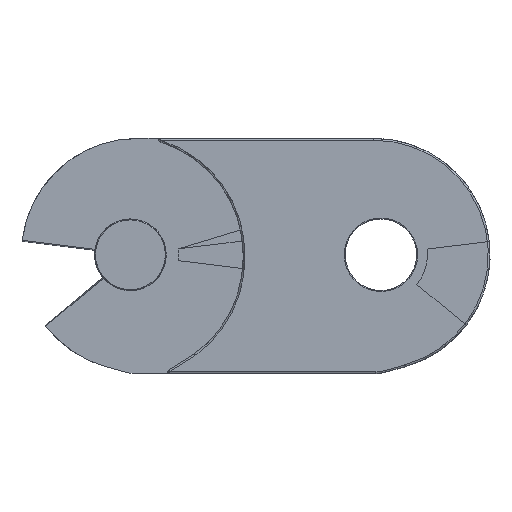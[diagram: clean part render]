
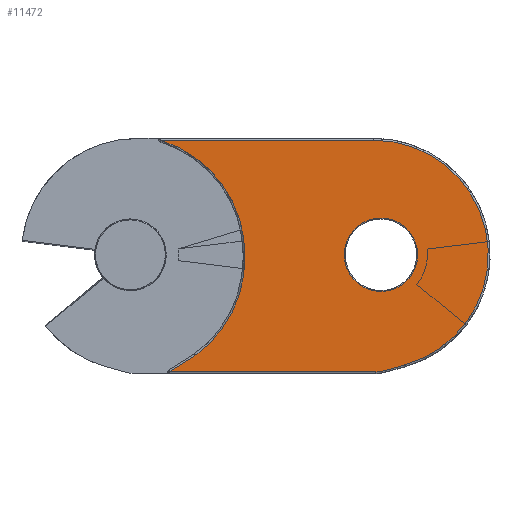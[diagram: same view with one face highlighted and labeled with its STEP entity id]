
A CAD part, left-side view. The second image highlights one B-rep face of the part: STEP entity #11472.
In plain terms, the highlighted planar face has unit normal (-1, 0, 0) as drawn and (0, 0, -1) by its records, which use the part's own axes.
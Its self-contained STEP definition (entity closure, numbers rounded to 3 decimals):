
#10945=CARTESIAN_POINT('',(105.249,139.968,70.528));
#10946=VERTEX_POINT('',#10945);
#10974=CARTESIAN_POINT('',(128.833,172.468,70.528));
#10975=VERTEX_POINT('',#10974);
#10991=CARTESIAN_POINT('',(95.337,171.968,70.528));
#10992=DIRECTION('',(0.,0.,-1.));
#10993=DIRECTION('',(0.809,-0.587,0.));
#10994=AXIS2_PLACEMENT_3D('',#10991,#10992,#10993);
#10995=CIRCLE('',#10994,33.5);
#10996=EDGE_CURVE('',#10975,#10946,#10995,.T.);
#11006=CARTESIAN_POINT('',(114.841,200.205,70.528));
#11007=VERTEX_POINT('',#11006);
#11008=CARTESIAN_POINT('',(95.337,172.968,70.528));
#11009=DIRECTION('',(0.,0.,-1.));
#11010=DIRECTION('',(0.893,0.45,0.));
#11011=AXIS2_PLACEMENT_3D('',#11008,#11009,#11010);
#11012=CIRCLE('',#11011,33.5);
#11013=EDGE_CURVE('',#11007,#10975,#11012,.T.);
#11059=CARTESIAN_POINT('',(107.835,204.668,70.528));
#11060=VERTEX_POINT('',#11059);
#11068=CARTESIAN_POINT('',(107.835,204.668,70.528));
#11069=DIRECTION('',(0.843,-0.537,0.));
#11070=VECTOR('',#11069,8.308);
#11071=LINE('',#11068,#11070);
#11072=EDGE_CURVE('',#11060,#11007,#11071,.T.);
#11089=CARTESIAN_POINT('',(173.507,202.771,70.528));
#11090=VERTEX_POINT('',#11089);
#11125=CARTESIAN_POINT('',(164.837,139.968,70.528));
#11126=VERTEX_POINT('',#11125);
#11134=CARTESIAN_POINT('',(164.837,171.968,70.528));
#11135=DIRECTION('',(0.,0.,1.));
#11136=DIRECTION('',(0.991,-0.137,0.));
#11137=AXIS2_PLACEMENT_3D('',#11134,#11135,#11136);
#11138=CIRCLE('',#11137,32.);
#11139=EDGE_CURVE('',#11126,#11090,#11138,.T.);
#11149=CARTESIAN_POINT('',(168.03,204.313,70.528));
#11150=VERTEX_POINT('',#11149);
#11167=CARTESIAN_POINT('',(173.507,202.771,70.528));
#11168=DIRECTION('',(-0.963,0.271,0.0));
#11169=VECTOR('',#11168,5.69);
#11170=LINE('',#11167,#11169);
#11171=EDGE_CURVE('',#11090,#11150,#11170,.T.);
#11188=CARTESIAN_POINT('',(105.249,139.968,70.528));
#11189=DIRECTION('',(1.0,0.0,0.0));
#11190=VECTOR('',#11189,59.588);
#11191=LINE('',#11188,#11190);
#11192=EDGE_CURVE('',#10946,#11126,#11191,.T.);
#11204=CARTESIAN_POINT('',(165.456,204.668,70.528));
#11205=VERTEX_POINT('',#11204);
#11223=CARTESIAN_POINT('',(165.456,195.168,70.528));
#11224=DIRECTION('',(0.,0.,1.0));
#11225=DIRECTION('',(0.137,0.991,0.));
#11226=AXIS2_PLACEMENT_3D('',#11223,#11224,#11225);
#11227=CIRCLE('',#11226,9.5);
#11228=EDGE_CURVE('',#11150,#11205,#11227,.T.);
#11254=CARTESIAN_POINT('',(165.456,204.668,70.528));
#11255=DIRECTION('',(-1.0,0.0,0.0));
#11256=VECTOR('',#11255,57.621);
#11257=LINE('',#11254,#11256);
#11258=EDGE_CURVE('',#11205,#11060,#11257,.T.);
#11446=CARTESIAN_POINT('',(128.779,172.346,70.528));
#11447=DIRECTION('',(0.0,0.0,1.0));
#11448=DIRECTION('',(1.0,0.0,0.0));
#11449=AXIS2_PLACEMENT_3D('',#11446,#11447,#11448);
#11450=PLANE('',#11449);
#11451=ORIENTED_EDGE('',*,*,#11139,.F.);
#11452=ORIENTED_EDGE('',*,*,#11192,.F.);
#11453=ORIENTED_EDGE('',*,*,#10996,.F.);
#11454=ORIENTED_EDGE('',*,*,#11013,.F.);
#11455=ORIENTED_EDGE('',*,*,#11072,.F.);
#11456=ORIENTED_EDGE('',*,*,#11258,.F.);
#11457=ORIENTED_EDGE('',*,*,#11228,.F.);
#11458=ORIENTED_EDGE('',*,*,#11171,.F.);
#11459=EDGE_LOOP('',(#11451,#11452,#11453,#11454,#11455,#11456,#11457,#11458));
#11460=FACE_OUTER_BOUND('',#11459,.T.);
#11461=CARTESIAN_POINT('',(177.087,171.968,70.528));
#11462=VERTEX_POINT('',#11461);
#11463=CARTESIAN_POINT('',(166.837,171.968,70.528));
#11464=DIRECTION('',(0.0,0.0,-1.0));
#11465=DIRECTION('',(-1.0,0.0,0.0));
#11466=AXIS2_PLACEMENT_3D('',#11463,#11464,#11465);
#11467=CIRCLE('',#11466,10.25);
#11468=EDGE_CURVE('',#11462,#11462,#11467,.T.);
#11469=ORIENTED_EDGE('',*,*,#11468,.F.);
#11470=EDGE_LOOP('',(#11469));
#11471=FACE_BOUND('',#11470,.T.);
#11472=ADVANCED_FACE('',(#11460,#11471),#11450,.F.);
